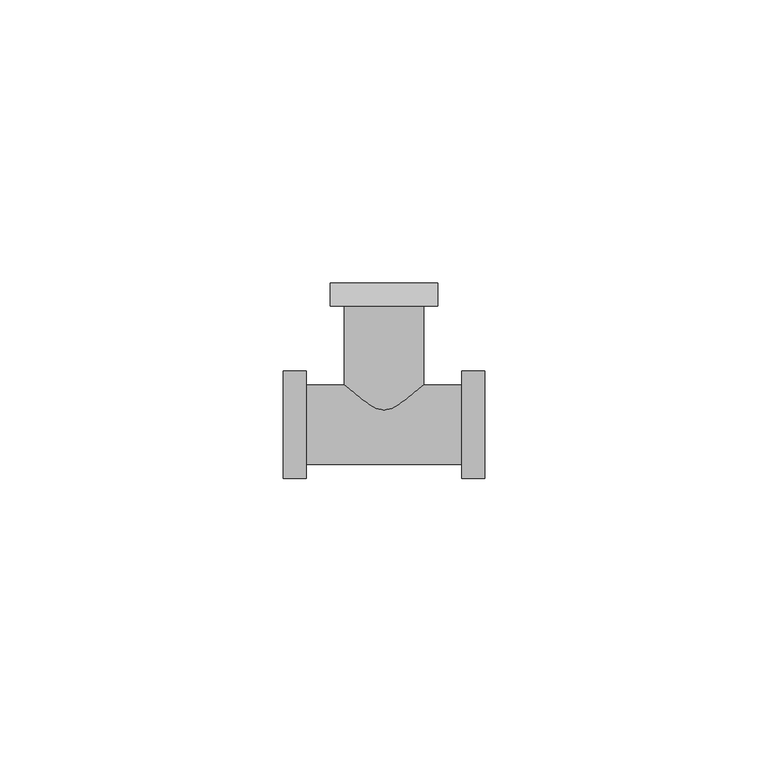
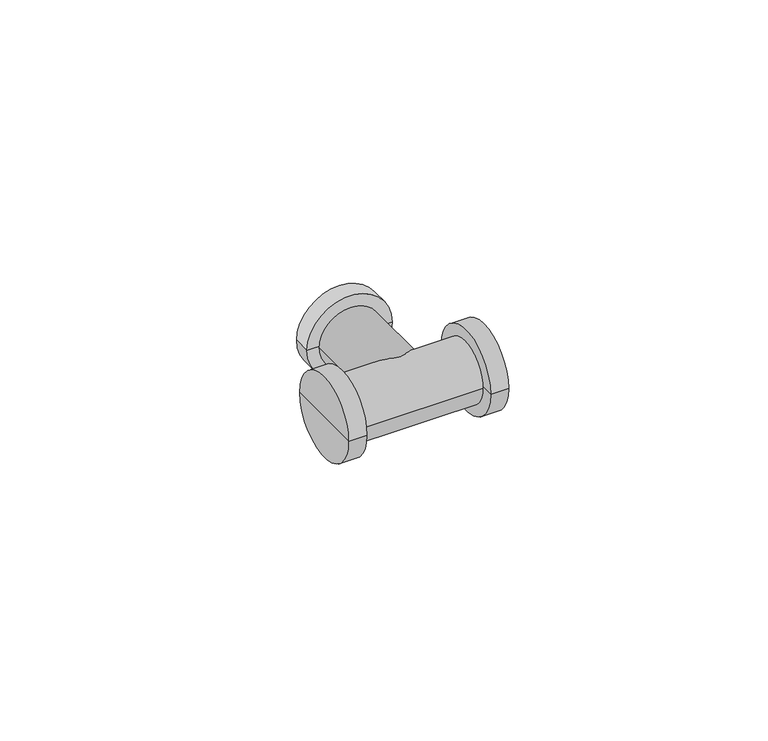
"""IFC4 building model written with IfcOpenShell, lengths in millimetres: pipe fitting geometry, KAN-therm Push trójnik PPSU : KAN-therm Push trójnik PPSU."""

from ifc_helpers import new_model, si_unit, frame, origin, place, context, project, spatial, circle_curve, source, transform, mapped, element, save
from ifc_brep_helpers import plane_surface, cylinder_surface, advanced_brep


def pipe_fitting_e054df29(model_context):
    return source(origin(), model_context, "Body", "AdvancedBrep", [
        advanced_brep(
        [(0.0, 21.0, 0.0), (-9.5, 21.0, 0.0), (9.5, 21.0, 0.0), (9.5, 25.0, 0.0), (-9.5, 25.0, 0.0), (0.0, 25.0, 0.0)],
        [
            (0, 1),
            (1, 2, circle_curve(frame((0.0, 21.0, 0.0), z_axis=(0.0, -1.0, 0.0), x_axis=(-1.0, 0.0, 0.0)), 9.5)),
            (2, 0),
            (2, 1, circle_curve(frame((0.0, 21.0, 0.0), z_axis=(0.0, -1.0, 0.0), x_axis=(-1.0, 0.0, 0.0)), 9.5)),
            (3, 4, circle_curve(frame((0.0, 25.0, 0.0), z_axis=(0.0, 1.0, 0.0), x_axis=(-1.0, 0.0, 0.0)), 9.5)),
            (4, 5),
            (5, 3),
            (4, 3, circle_curve(frame((0.0, 25.0, 0.0), z_axis=(0.0, 1.0, 0.0), x_axis=(-1.0, 0.0, 0.0)), 9.5)),
            (1, 4),
            (3, 2),
        ],
        [
            plane_surface(frame((0.0, 21.0, 0.0), z_axis=(0.0, -1.0, 0.0), x_axis=(-1.0, 0.0, 0.0))),
            plane_surface(frame((0.0, 25.0, 0.0), z_axis=(0.0, 1.0, 0.0), x_axis=(-1.0, 0.0, 0.0))),
            cylinder_surface(frame((0.0, 2000.0, 0.0), z_axis=(0.0, -1.0, 0.0), x_axis=(-1.0, 0.0, 0.0)), 9.5),
        ],
        [
            (0, [[1, 2, 3]]),
            (0, [[-3, 4, -1]]),
            (1, [[5, 6, 7]]),
            (1, [[8, -7, -6]]),
            (2, [[-2, 9, -5, 10]]),
            (2, [[-4, -10, -8, -9]]),
        ],
    ),
        advanced_brep(
        [(13.75, 0.0, 0.0), (13.75, 9.5, 0.0), (13.75, -9.5, 0.0), (17.75, -9.5, 0.0), (17.75, 9.5, 0.0), (17.75, 0.0, 0.0)],
        [
            (0, 1),
            (1, 2, circle_curve(frame((13.75, 0.0, 0.0), z_axis=(-1.0, 0.0, 0.0), x_axis=(0.0, 1.0, 0.0)), 9.5)),
            (2, 0),
            (2, 1, circle_curve(frame((13.75, 0.0, 0.0), z_axis=(-1.0, 0.0, 0.0), x_axis=(0.0, 1.0, 0.0)), 9.5)),
            (3, 4, circle_curve(frame((17.75, 0.0, 0.0), z_axis=(1.0, 0.0, 0.0), x_axis=(0.0, 1.0, 0.0)), 9.5)),
            (4, 5),
            (5, 3),
            (4, 3, circle_curve(frame((17.75, 0.0, 0.0), z_axis=(1.0, 0.0, 0.0), x_axis=(0.0, 1.0, 0.0)), 9.5)),
            (1, 4),
            (3, 2),
        ],
        [
            plane_surface(frame((13.75, 0.0, 0.0), z_axis=(-1.0, 0.0, 0.0), x_axis=(0.0, 1.0, 0.0))),
            plane_surface(frame((17.75, 0.0, 0.0), z_axis=(1.0, 0.0, 0.0), x_axis=(0.0, 1.0, 0.0))),
            cylinder_surface(frame((2000.0, 0.0, 0.0), z_axis=(-1.0, 0.0, 0.0), x_axis=(0.0, 1.0, 0.0)), 9.5),
        ],
        [
            (0, [[1, 2, 3]]),
            (0, [[-3, 4, -1]]),
            (1, [[5, 6, 7]]),
            (1, [[8, -7, -6]]),
            (2, [[-2, 9, -5, 10]]),
            (2, [[-4, -10, -8, -9]]),
        ],
    ),
        advanced_brep(
        [(-17.75, -9.5, 0.0), (-17.75, 9.5, 0.0), (-13.75, 9.5, 0.0), (-13.75, -9.5, 0.0), (-17.75, 0.0, 0.0), (-13.75, 0.0, 0.0)],
        [
            (0, 1, circle_curve(frame((-17.75, 0.0, 0.0), z_axis=(1.0, 0.0, 0.0), x_axis=(0.0, 1.0, 0.0)), 9.5)),
            (1, 2),
            (2, 3, circle_curve(frame((-13.75, 0.0, 0.0), z_axis=(-1.0, 0.0, 0.0), x_axis=(0.0, 1.0, 0.0)), 9.5)),
            (3, 0),
            (1, 0, circle_curve(frame((-17.75, 0.0, 0.0), z_axis=(1.0, 0.0, 0.0), x_axis=(0.0, 1.0, 0.0)), 9.5)),
            (3, 2, circle_curve(frame((-13.75, 0.0, 0.0), z_axis=(-1.0, 0.0, 0.0), x_axis=(0.0, 1.0, 0.0)), 9.5)),
            (4, 1),
            (0, 4),
            (2, 5),
            (5, 3),
        ],
        [
            cylinder_surface(frame((2000.0, 0.0, 0.0), z_axis=(-1.0, 0.0, 0.0), x_axis=(0.0, 1.0, 0.0)), 9.5),
            plane_surface(frame((-17.75, 0.0, 0.0), z_axis=(-1.0, 0.0, 0.0), x_axis=(0.0, 1.0, 0.0))),
            plane_surface(frame((-13.75, 0.0, 0.0), z_axis=(1.0, 0.0, 0.0), x_axis=(0.0, 1.0, 0.0))),
        ],
        [
            (0, [[1, 2, 3, 4]]),
            (0, [[5, -4, 6, -2]]),
            (1, [[7, -1, 8]]),
            (1, [[-8, -5, -7]]),
            (2, [[-3, 9, 10]]),
            (2, [[-6, -10, -9]]),
        ],
    ),
        advanced_brep(
        [(17.75, -7.0, 0.0), (17.75, 7.0, 0.0), (17.75, 0.0, 0.0), (-17.75, -7.0, 0.0), (-17.75, 7.0, 0.0), (-17.75, 0.0, 0.0)],
        [
            (0, 1, circle_curve(frame((17.75, 0.0, 0.0), z_axis=(1.0, 0.0, 0.0), x_axis=(0.0, 1.0, 0.0)), 7.0)),
            (1, 2),
            (2, 0),
            (1, 0, circle_curve(frame((17.75, 0.0, 0.0), z_axis=(1.0, 0.0, 0.0), x_axis=(0.0, 1.0, 0.0)), 7.0)),
            (3, 4, circle_curve(frame((-17.75, 0.0, 0.0), z_axis=(1.0, 0.0, 0.0), x_axis=(0.0, 1.0, 0.0)), 7.0)),
            (4, 1),
            (0, 3),
            (4, 3, circle_curve(frame((-17.75, 0.0, 0.0), z_axis=(1.0, 0.0, 0.0), x_axis=(0.0, 1.0, 0.0)), 7.0)),
            (5, 4),
            (3, 5),
        ],
        [
            plane_surface(frame((17.75, 0.0, 0.0), z_axis=(1.0, 0.0, 0.0), x_axis=(0.0, 1.0, 0.0))),
            cylinder_surface(frame((2005.25, 0.0, 0.0), z_axis=(-1.0, 0.0, 0.0), x_axis=(0.0, 1.0, 0.0)), 7.0),
            plane_surface(frame((-17.75, 0.0, 0.0), z_axis=(-1.0, 0.0, 0.0), x_axis=(0.0, 1.0, 0.0))),
        ],
        [
            (0, [[1, 2, 3]]),
            (0, [[4, -3, -2]]),
            (1, [[5, 6, -1, 7]]),
            (1, [[8, -7, -4, -6]]),
            (2, [[9, -5, 10]]),
            (2, [[-10, -8, -9]]),
        ],
    ),
        advanced_brep(
        [(-7.0, 0.0, 0.0), (7.0, 0.0, 0.0), (0.0, 0.0, 0.0), (-7.0, 25.0, 0.0), (7.0, 25.0, 0.0), (0.0, 25.0, 0.0)],
        [
            (0, 1, circle_curve(frame((0.0, 0.0, 0.0), z_axis=(0.0, -1.0, 0.0), x_axis=(1.0, 0.0, 0.0)), 7.0)),
            (1, 2),
            (2, 0),
            (1, 0, circle_curve(frame((0.0, 0.0, 0.0), z_axis=(0.0, -1.0, 0.0), x_axis=(1.0, 0.0, 0.0)), 7.0)),
            (3, 4, circle_curve(frame((0.0, 25.0, 0.0), z_axis=(0.0, -1.0, 0.0), x_axis=(1.0, 0.0, 0.0)), 7.0)),
            (4, 1),
            (0, 3),
            (4, 3, circle_curve(frame((0.0, 25.0, 0.0), z_axis=(0.0, -1.0, 0.0), x_axis=(1.0, 0.0, 0.0)), 7.0)),
            (5, 4),
            (3, 5),
        ],
        [
            plane_surface(frame((0.0, 0.0, 0.0), z_axis=(0.0, -1.0, 0.0), x_axis=(1.0, 0.0, 0.0))),
            cylinder_surface(frame((0.0, 2007.0, 0.0), z_axis=(0.0, 1.0, 0.0), x_axis=(1.0, 0.0, 0.0)), 7.0),
            plane_surface(frame((0.0, 25.0, 0.0), z_axis=(0.0, 1.0, 0.0), x_axis=(1.0, 0.0, 0.0))),
        ],
        [
            (0, [[1, 2, 3]]),
            (0, [[4, -3, -2]]),
            (1, [[5, 6, -1, 7]]),
            (1, [[8, -7, -4, -6]]),
            (2, [[9, -5, 10]]),
            (2, [[-10, -8, -9]]),
        ],
    ),
    ])


if __name__ == "__main__":
    model = new_model("IFC4")
    model_context = context("Model", 3, world=origin())
    ifc_project = project(units=[si_unit("LENGTHUNIT", "METRE", prefix="MILLI")], contexts=[model_context])
    site = spatial("IfcSite", under=ifc_project)
    building = spatial("IfcBuilding", under=site)
    placement = place(None, origin())
    pipe_fitting_shape = pipe_fitting_e054df29(model_context)
    element("IfcPipeFitting", 1, ObjectType="KAN-therm Push trójnik PPSU : KAN-therm Push trójnik PPSU", at=placement, inside=building, context=model_context, shape_type="MappedRepresentation", body=[
        mapped(pipe_fitting_shape, transform((0.0, 0.0, 0.0), x_axis=(1.0, 0.0, 0.0), y_axis=(0.0, 1.0, 0.0), z_axis=(0.0, 0.0, 1.0))),
    ])
    save(model, "model.ifc")
